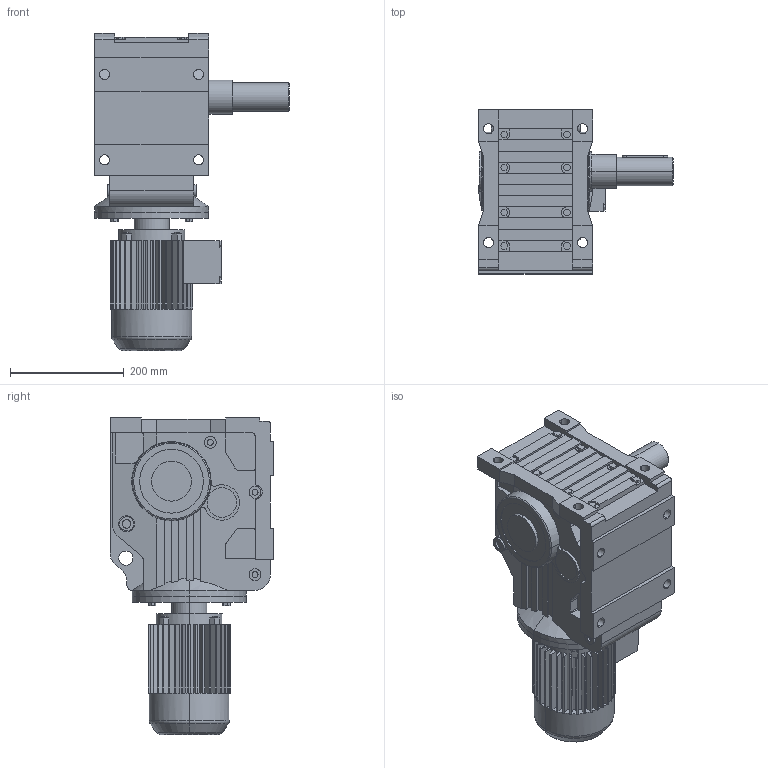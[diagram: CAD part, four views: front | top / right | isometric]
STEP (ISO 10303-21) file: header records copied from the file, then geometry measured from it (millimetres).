
FILE_DESCRIPTION(('Open CASCADE Model'),'2;1');
FILE_NAME('Open CASCADE Shape Model','2021-06-07T10:33:15',('Author'),( 'Open CASCADE'),'Open CASCADE STEP processor 6.3','Open CASCADE 6.3' ,'Unknown');
FILE_SCHEMA(('AUTOMOTIVE_DESIGN_CC2 { 1 2 10303 214 -1 1 5 4 }'));
Length unit declared in the file: millimetre
Products named in the file (4): 1_K77DT80-A; K37‵157_77.step; 萇儂_200-DT80-243-307-145-122.step; す瑩妗陑粣K_77.step
Assembly tree (3 placements, depth 2):
  1_K77DT80-A
    K37‵157_77.step
    萇儂_200-DT80-243-307-145-122.step
    す瑩妗陑粣K_77.step
Bounding box: 342 x 288 x 557 mm (x, y, z)
Volume: 16617424.4 mm3; surface area: 884814.4 mm2
Topology: 3 solids, 3 shells, 841 faces, 2214 edges, 1436 vertices
Faces by surface type: plane 585, cylinder 231, cone 17, torus 8
Entity records: 57794 total; most frequent: CARTESIAN_POINT 15701, DIRECTION 7261, ORIENTED_EDGE 4424, PCURVE 4424, DEFINITIONAL_REPRESENTATION 4424, LINE 3951, VECTOR 3951, EDGE_CURVE 2212
